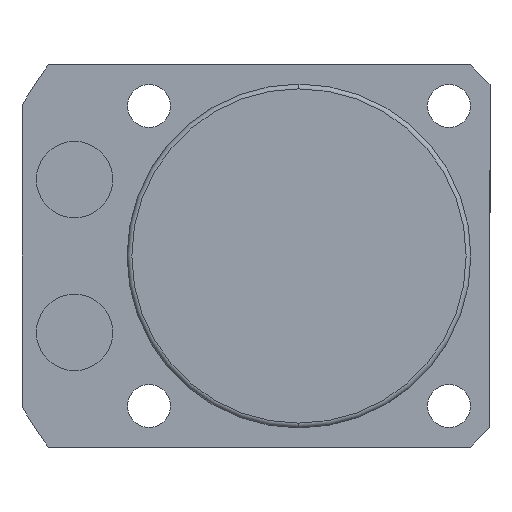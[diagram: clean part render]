
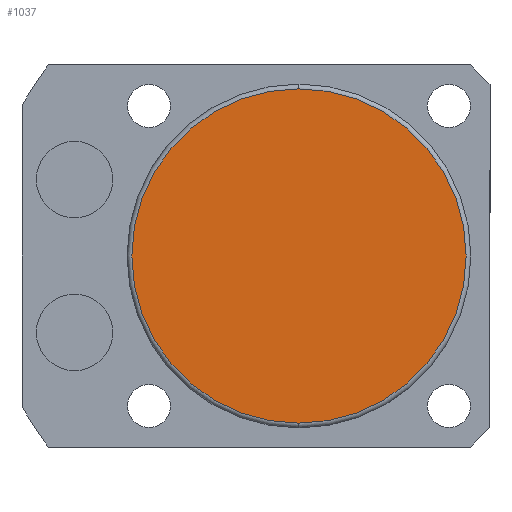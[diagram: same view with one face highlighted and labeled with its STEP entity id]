
A CAD part, front view. The second image highlights one B-rep face of the part: STEP entity #1037.
In plain terms, the highlighted planar face has unit normal (0, -1, 0).
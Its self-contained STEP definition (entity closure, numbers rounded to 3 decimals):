
#10 = CARTESIAN_POINT ( 'NONE',  ( 0., -105.5, 0. ) ) ;
#473 = PLANE ( 'NONE',  #2082 ) ;
#713 = EDGE_CURVE ( 'NONE', #2603, #2652, #1979, .T. ) ;
#808 = EDGE_CURVE ( 'NONE', #2652, #2603, #2639, .T. ) ;
#1037 = ADVANCED_FACE ( 'NONE', ( #2276 ), #473, .T. ) ;
#1049 = DIRECTION ( 'NONE',  ( 0., -1., 0. ) ) ;
#1076 = EDGE_LOOP ( 'NONE', ( #1142, #1689 ) ) ;
#1142 = ORIENTED_EDGE ( 'NONE', *, *, #808, .T. ) ;
#1320 = DIRECTION ( 'NONE',  ( 0., 0., -1. ) ) ;
#1383 = CARTESIAN_POINT ( 'NONE',  ( 0., -105.5, -17.5 ) ) ;
#1497 = AXIS2_PLACEMENT_3D ( 'NONE', #2285, #2056, #2697 ) ;
#1581 = AXIS2_PLACEMENT_3D ( 'NONE', #10, #1049, #1870 ) ;
#1689 = ORIENTED_EDGE ( 'NONE', *, *, #713, .T. ) ;
#1786 = CARTESIAN_POINT ( 'NONE',  ( 0., -105.5, 17.5 ) ) ;
#1870 = DIRECTION ( 'NONE',  ( 0., 0., -1. ) ) ;
#1979 = CIRCLE ( 'NONE', #1581, 17.5 ) ;
#2056 = DIRECTION ( 'NONE',  ( 0., -1., 0. ) ) ;
#2082 = AXIS2_PLACEMENT_3D ( 'NONE', #2565, #2129, #1320 ) ;
#2129 = DIRECTION ( 'NONE',  ( 0., -1., 0. ) ) ;
#2276 = FACE_OUTER_BOUND ( 'NONE', #1076, .T. ) ;
#2285 = CARTESIAN_POINT ( 'NONE',  ( 0., -105.5, 0. ) ) ;
#2565 = CARTESIAN_POINT ( 'NONE',  ( 0., -105.5, 0. ) ) ;
#2603 = VERTEX_POINT ( 'NONE', #1786 ) ;
#2639 = CIRCLE ( 'NONE', #1497, 17.5 ) ;
#2652 = VERTEX_POINT ( 'NONE', #1383 ) ;
#2697 = DIRECTION ( 'NONE',  ( 0., 0., -1. ) ) ;
